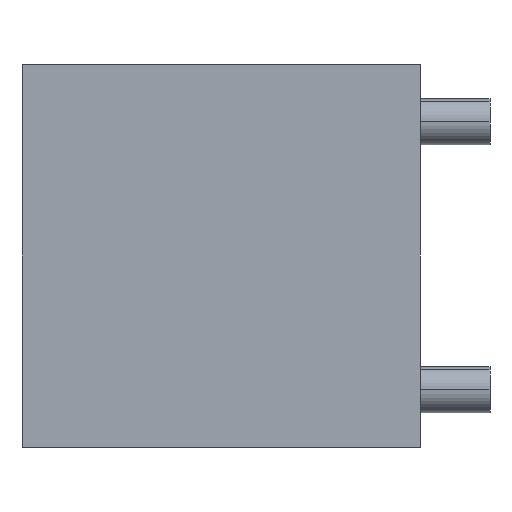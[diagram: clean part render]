
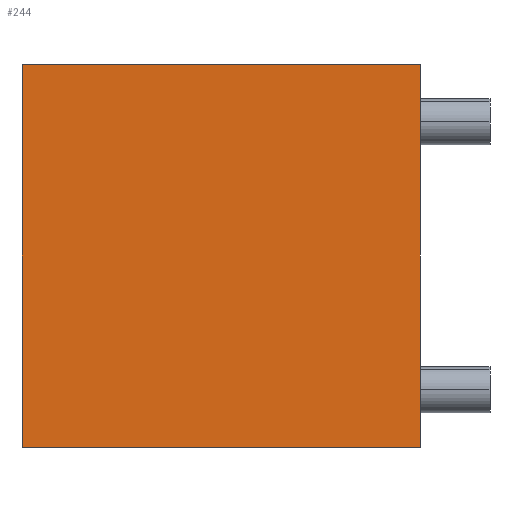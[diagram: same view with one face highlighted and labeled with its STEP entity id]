
A CAD part, left-side view. The second image highlights one B-rep face of the part: STEP entity #244.
In plain terms, the highlighted planar face has unit normal (-1, 0, 0).
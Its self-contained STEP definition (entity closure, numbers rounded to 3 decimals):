
#244=ADVANCED_FACE('Pad.1',(#574),#575,.F.);
#574=FACE_OUTER_BOUND('',#1038,.T.);
#575=PLANE('',#1039);
#1038=EDGE_LOOP('',(#1586,#1587,#1588,#1589));
#1039=AXIS2_PLACEMENT_3D('',#1590,#1591,#1592);
#1586=ORIENTED_EDGE('',*,*,#2726,.T.);
#1587=ORIENTED_EDGE('',*,*,#2727,.T.);
#1588=ORIENTED_EDGE('',*,*,#2728,.F.);
#1589=ORIENTED_EDGE('',*,*,#2729,.F.);
#1590=CARTESIAN_POINT('',(-20.0,0.0,-25.0));
#1591=DIRECTION('',(1.0,0.0,-0.0));
#1592=DIRECTION('',(0.0,0.0,1.0));
#2726=EDGE_CURVE('',#3272,#3273,#3274,.T.);
#2727=EDGE_CURVE('',#3273,#3275,#3276,.T.);
#2728=EDGE_CURVE('',#3277,#3275,#3278,.T.);
#2729=EDGE_CURVE('',#3272,#3277,#3279,.T.);
#3272=VERTEX_POINT('',#4024);
#3273=VERTEX_POINT('',#4025);
#3274=LINE('',#4026,#4027);
#3275=VERTEX_POINT('',#4028);
#3276=LINE('',#4029,#4030);
#3277=VERTEX_POINT('',#4031);
#3278=LINE('',#4032,#4033);
#3279=LINE('',#4034,#4035);
#4024=CARTESIAN_POINT('',(-20.0,-7.0,-25.0));
#4025=CARTESIAN_POINT('',(-20.0,-59.0,-25.0));
#4026=CARTESIAN_POINT('',(-20.0,-33.0,-25.0));
#4027=VECTOR('',#4880,1.0);
#4028=CARTESIAN_POINT('',(-20.0,-59.0,25.0));
#4029=CARTESIAN_POINT('',(-20.0,-59.0,0.));
#4030=VECTOR('',#4881,1.0);
#4031=CARTESIAN_POINT('',(-20.0,-7.0,25.0));
#4032=CARTESIAN_POINT('',(-20.0,-33.0,25.0));
#4033=VECTOR('',#4882,1.0);
#4034=CARTESIAN_POINT('',(-20.0,-7.0,0.));
#4035=VECTOR('',#4883,1.0);
#4880=DIRECTION('',(0.0,-1.0,0.0));
#4881=DIRECTION('',(0.0,0.0,1.0));
#4882=DIRECTION('',(0.0,-1.0,0.0));
#4883=DIRECTION('',(0.0,0.0,1.0));
